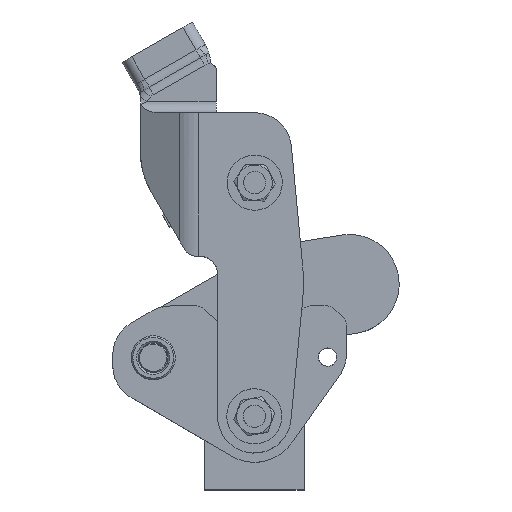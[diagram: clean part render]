
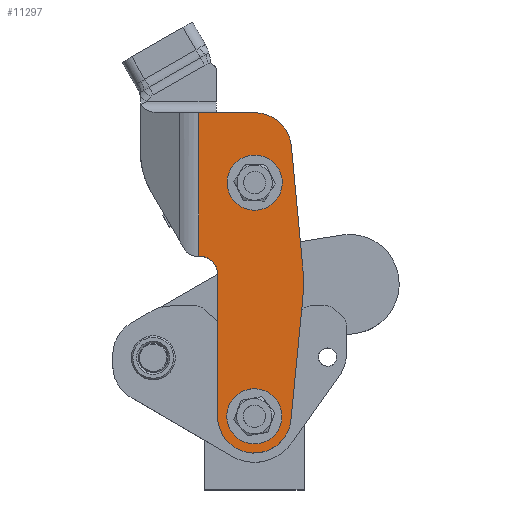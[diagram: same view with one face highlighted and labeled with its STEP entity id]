
A CAD part, top view. The second image highlights one B-rep face of the part: STEP entity #11297.
In plain terms, the highlighted planar face has unit normal (0, 0, 1) as drawn and (0, 0, -1) by its records, which use the part's own axes.
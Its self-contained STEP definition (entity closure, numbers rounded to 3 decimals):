
#352 = CIRCLE ( 'NONE', #6303, 5. ) ;
#401 = DIRECTION ( 'NONE',  ( 1., 0., 0. ) ) ;
#440 = CARTESIAN_POINT ( 'NONE',  ( -13.138, 40.045, -17. ) ) ;
#604 = EDGE_CURVE ( 'NONE', #7764, #17666, #17028, .T. ) ;
#656 = CIRCLE ( 'NONE', #13934, 7.5 ) ;
#704 = CARTESIAN_POINT ( 'NONE',  ( 10., 38.5, -17. ) ) ;
#784 = VECTOR ( 'NONE', #20233, 1000. ) ;
#1127 = VERTEX_POINT ( 'NONE', #22706 ) ;
#1309 = EDGE_CURVE ( 'NONE', #21715, #7764, #11382, .T. ) ;
#1635 = DIRECTION ( 'NONE',  ( 0., 0., 1. ) ) ;
#1695 = FACE_BOUND ( 'NONE', #23526, .T. ) ;
#1789 = VERTEX_POINT ( 'NONE', #25751 ) ;
#1981 = DIRECTION ( 'NONE',  ( 0., 0., 1. ) ) ;
#3006 = CIRCLE ( 'NONE', #8948, 7.5 ) ;
#3046 = DIRECTION ( 'NONE',  ( 0., 0., 1. ) ) ;
#3062 = EDGE_CURVE ( 'NONE', #25991, #19805, #17783, .T. ) ;
#3384 = LINE ( 'NONE', #7838, #15016 ) ;
#3802 = LINE ( 'NONE', #23181, #26868 ) ;
#3983 = ORIENTED_EDGE ( 'NONE', *, *, #20411, .F. ) ;
#4527 = VERTEX_POINT ( 'NONE', #25934 ) ;
#4559 = CARTESIAN_POINT ( 'NONE',  ( -9.955, -0.949, -17. ) ) ;
#5024 = CARTESIAN_POINT ( 'NONE',  ( 15., 38.5, -17. ) ) ;
#5409 = ORIENTED_EDGE ( 'NONE', *, *, #12582, .T. ) ;
#5439 = VERTEX_POINT ( 'NONE', #15014 ) ;
#5520 = LINE ( 'NONE', #20763, #25911 ) ;
#5782 = DIRECTION ( 'NONE',  ( 1., 0., 0. ) ) ;
#5846 = FACE_BOUND ( 'NONE', #22925, .T. ) ;
#6013 = ORIENTED_EDGE ( 'NONE', *, *, #17381, .T. ) ;
#6303 = AXIS2_PLACEMENT_3D ( 'NONE', #5024, #9041, #13792 ) ;
#6425 = VERTEX_POINT ( 'NONE', #26367 ) ;
#6565 = EDGE_CURVE ( 'NONE', #1789, #17872, #3802, .T. ) ;
#7266 = DIRECTION ( 'NONE',  ( -0.095, -0.995, 0. ) ) ;
#7324 = EDGE_CURVE ( 'NONE', #6425, #21715, #5520, .T. ) ;
#7669 = VECTOR ( 'NONE', #401, 1000. ) ;
#7739 = PLANE ( 'NONE',  #8839 ) ;
#7764 = VERTEX_POINT ( 'NONE', #25016 ) ;
#7838 = CARTESIAN_POINT ( 'NONE',  ( -9.955, 73.449, -17. ) ) ;
#8732 = EDGE_CURVE ( 'NONE', #24348, #17666, #352, .T. ) ;
#8839 = AXIS2_PLACEMENT_3D ( 'NONE', #16918, #10446, #25539 ) ;
#8948 = AXIS2_PLACEMENT_3D ( 'NONE', #20236, #11614, #24686 ) ;
#9041 = DIRECTION ( 'NONE',  ( 0., 0., 1. ) ) ;
#9181 = ORIENTED_EDGE ( 'NONE', *, *, #6565, .T. ) ;
#9417 = CIRCLE ( 'NONE', #25491, 40. ) ;
#10245 = CARTESIAN_POINT ( 'NONE',  ( 0., 0., -17. ) ) ;
#10446 = DIRECTION ( 'NONE',  ( 0., 0., 1. ) ) ;
#10629 = ORIENTED_EDGE ( 'NONE', *, *, #604, .F. ) ;
#10724 = DIRECTION ( 'NONE',  ( 1., 0., 0. ) ) ;
#10961 = CARTESIAN_POINT ( 'NONE',  ( 7.5, 63.5, -17. ) ) ;
#11297 = ADVANCED_FACE ( 'NONE', ( #5846, #22963, #1695 ), #7739, .F. ) ;
#11382 = CIRCLE ( 'NONE', #20561, 10. ) ;
#11473 = DIRECTION ( 'NONE',  ( 1., 0., 0. ) ) ;
#11614 = DIRECTION ( 'NONE',  ( 0., 0., 1. ) ) ;
#11678 = DIRECTION ( 'NONE',  ( 1., 0., 0. ) ) ;
#12425 = DIRECTION ( 'NONE',  ( 0.095, -0.995, 0. ) ) ;
#12582 = EDGE_CURVE ( 'NONE', #19805, #25991, #656, .T. ) ;
#13291 = EDGE_CURVE ( 'NONE', #17872, #24348, #14043, .T. ) ;
#13305 = AXIS2_PLACEMENT_3D ( 'NONE', #27047, #3046, #24579 ) ;
#13614 = CARTESIAN_POINT ( 'NONE',  ( 18., 43.5, -17. ) ) ;
#13792 = DIRECTION ( 'NONE',  ( 1., 0., 0. ) ) ;
#13934 = AXIS2_PLACEMENT_3D ( 'NONE', #17297, #21626, #21335 ) ;
#14043 = LINE ( 'NONE', #13614, #784 ) ;
#14223 = VERTEX_POINT ( 'NONE', #26123 ) ;
#14908 = ORIENTED_EDGE ( 'NONE', *, *, #20431, .T. ) ;
#15014 = CARTESIAN_POINT ( 'NONE',  ( 0., 82.5, -17. ) ) ;
#15016 = VECTOR ( 'NONE', #7266, 1000. ) ;
#16338 = CARTESIAN_POINT ( 'NONE',  ( 15.179, 43.5, -17. ) ) ;
#16883 = CARTESIAN_POINT ( 'NONE',  ( 10., 0., -17. ) ) ;
#16918 = CARTESIAN_POINT ( 'NONE',  ( 0., 0., -17. ) ) ;
#17028 = LINE ( 'NONE', #16883, #17403 ) ;
#17196 = CARTESIAN_POINT ( 'NONE',  ( 0., 72.5, -17. ) ) ;
#17297 = CARTESIAN_POINT ( 'NONE',  ( 0., 63.5, -17. ) ) ;
#17381 = EDGE_CURVE ( 'NONE', #14223, #1127, #22468, .T. ) ;
#17403 = VECTOR ( 'NONE', #23914, 1000. ) ;
#17666 = VERTEX_POINT ( 'NONE', #704 ) ;
#17783 = CIRCLE ( 'NONE', #26979, 7.5 ) ;
#17872 = VERTEX_POINT ( 'NONE', #16338 ) ;
#18206 = LINE ( 'NONE', #24805, #7669 ) ;
#18806 = EDGE_LOOP ( 'NONE', ( #19231, #27828, #3983, #24083, #20796, #24965, #9181, #19490, #19172, #10629 ) ) ;
#19172 = ORIENTED_EDGE ( 'NONE', *, *, #8732, .T. ) ;
#19231 = ORIENTED_EDGE ( 'NONE', *, *, #1309, .F. ) ;
#19490 = ORIENTED_EDGE ( 'NONE', *, *, #13291, .T. ) ;
#19805 = VERTEX_POINT ( 'NONE', #23732 ) ;
#20233 = DIRECTION ( 'NONE',  ( -1., 0., 0. ) ) ;
#20236 = CARTESIAN_POINT ( 'NONE',  ( 0., 0., -17. ) ) ;
#20411 = EDGE_CURVE ( 'NONE', #25380, #6425, #9417, .T. ) ;
#20431 = EDGE_CURVE ( 'NONE', #1127, #14223, #3006, .T. ) ;
#20561 = AXIS2_PLACEMENT_3D ( 'NONE', #10245, #1635, #5782 ) ;
#20625 = EDGE_CURVE ( 'NONE', #5439, #4527, #22745, .T. ) ;
#20672 = CARTESIAN_POINT ( 'NONE',  ( 26.681, 36.25, -17. ) ) ;
#20759 = ORIENTED_EDGE ( 'NONE', *, *, #3062, .T. ) ;
#20763 = CARTESIAN_POINT ( 'NONE',  ( -13.138, 32.455, -17. ) ) ;
#20796 = ORIENTED_EDGE ( 'NONE', *, *, #20625, .F. ) ;
#20809 = DIRECTION ( 'NONE',  ( 0., 0., 1. ) ) ;
#21197 = DIRECTION ( 'NONE',  ( 0., -1., 0. ) ) ;
#21335 = DIRECTION ( 'NONE',  ( 1., 0., 0. ) ) ;
#21352 = CARTESIAN_POINT ( 'NONE',  ( 15., 43.5, -17. ) ) ;
#21626 = DIRECTION ( 'NONE',  ( 0., 0., 1. ) ) ;
#21715 = VERTEX_POINT ( 'NONE', #4559 ) ;
#22468 = CIRCLE ( 'NONE', #13305, 7.5 ) ;
#22706 = CARTESIAN_POINT ( 'NONE',  ( 7.5, 0., -17. ) ) ;
#22745 = CIRCLE ( 'NONE', #24583, 10. ) ;
#22925 = EDGE_LOOP ( 'NONE', ( #5409, #20759 ) ) ;
#22963 = FACE_OUTER_BOUND ( 'NONE', #18806, .T. ) ;
#23181 = CARTESIAN_POINT ( 'NONE',  ( 15.179, 0., -17. ) ) ;
#23202 = EDGE_CURVE ( 'NONE', #4527, #25380, #3384, .T. ) ;
#23526 = EDGE_LOOP ( 'NONE', ( #6013, #14908 ) ) ;
#23732 = CARTESIAN_POINT ( 'NONE',  ( -7.5, 63.5, -17. ) ) ;
#23914 = DIRECTION ( 'NONE',  ( 0., 1., 0. ) ) ;
#24083 = ORIENTED_EDGE ( 'NONE', *, *, #23202, .F. ) ;
#24329 = CARTESIAN_POINT ( 'NONE',  ( 0., 63.5, -17. ) ) ;
#24348 = VERTEX_POINT ( 'NONE', #21352 ) ;
#24579 = DIRECTION ( 'NONE',  ( 1., 0., 0. ) ) ;
#24583 = AXIS2_PLACEMENT_3D ( 'NONE', #17196, #1981, #10724 ) ;
#24686 = DIRECTION ( 'NONE',  ( 1., 0., 0. ) ) ;
#24805 = CARTESIAN_POINT ( 'NONE',  ( 0., 82.5, -17. ) ) ;
#24965 = ORIENTED_EDGE ( 'NONE', *, *, #25633, .T. ) ;
#25016 = CARTESIAN_POINT ( 'NONE',  ( 10., 0., -17. ) ) ;
#25380 = VERTEX_POINT ( 'NONE', #440 ) ;
#25491 = AXIS2_PLACEMENT_3D ( 'NONE', #20672, #20809, #11473 ) ;
#25539 = DIRECTION ( 'NONE',  ( 1., 0., 0. ) ) ;
#25633 = EDGE_CURVE ( 'NONE', #5439, #1789, #18206, .T. ) ;
#25751 = CARTESIAN_POINT ( 'NONE',  ( 15.179, 82.5, -17. ) ) ;
#25911 = VECTOR ( 'NONE', #12425, 1000. ) ;
#25934 = CARTESIAN_POINT ( 'NONE',  ( -9.955, 73.449, -17. ) ) ;
#25991 = VERTEX_POINT ( 'NONE', #10961 ) ;
#26123 = CARTESIAN_POINT ( 'NONE',  ( -7.5, 0., -17. ) ) ;
#26367 = CARTESIAN_POINT ( 'NONE',  ( -13.138, 32.455, -17. ) ) ;
#26868 = VECTOR ( 'NONE', #21197, 1000. ) ;
#26916 = DIRECTION ( 'NONE',  ( 0., 0., 1. ) ) ;
#26979 = AXIS2_PLACEMENT_3D ( 'NONE', #24329, #26916, #11678 ) ;
#27047 = CARTESIAN_POINT ( 'NONE',  ( 0., 0., -17. ) ) ;
#27828 = ORIENTED_EDGE ( 'NONE', *, *, #7324, .F. ) ;
